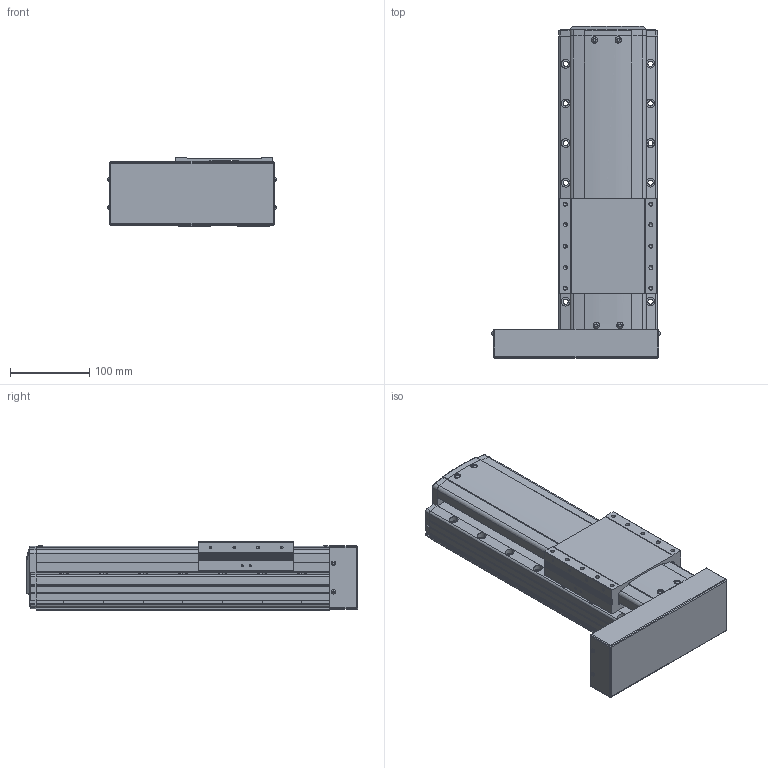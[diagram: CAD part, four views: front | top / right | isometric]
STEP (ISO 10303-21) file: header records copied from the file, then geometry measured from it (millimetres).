
FILE_DESCRIPTION(('STEP AP214'),'1');
FILE_NAME('Z:/Web/3D/PSA125/STP/PSA125-150 (3D)/PSA125ㅁㅁ-150PL.stp','2014-06-20T08:53:26',(' '),(' '),'Spatial InterOp 3D',' ',' ');
FILE_SCHEMA(('automotive_design'));
Length unit declared in the file: millimetre
Products named in the file (23): 스크루 : Round - M4.0 x 10.0; RRCV-PA120; SLIDE; BASE; FRCV-PA120-1(기준 뿔 제거); RR1500; 스크루 : Round - M4.0 x 6.0; 너트 : Square - M10.0 x 220.7419; BTCV - 60A; 스크루 : Round - M3.0 x 6.0
Bounding box: 212.13 x 418.6 x 86 mm (x, y, z)
Volume: 3912295.7 mm3; surface area: 385112.5 mm2
Topology: 23 solids, 23 shells, 1902 faces, 5097 edges, 3248 vertices
Faces by surface type: plane 1050, cylinder 556, cone 196, sphere 44, bspline 31, torus 25
Entity records: 76338 total; most frequent: CARTESIAN_POINT 12890, DIRECTION 10065, ORIENTED_EDGE 9958, EDGE_CURVE 4979, LINE 3369, VECTOR 3369, AXIS2_PLACEMENT_3D 3348, VERTEX_POINT 3248
